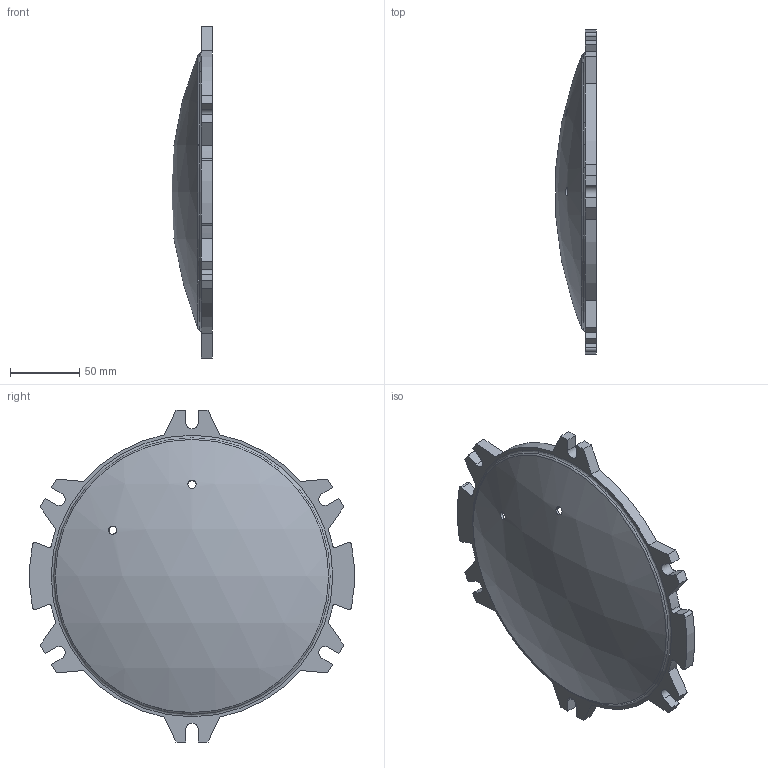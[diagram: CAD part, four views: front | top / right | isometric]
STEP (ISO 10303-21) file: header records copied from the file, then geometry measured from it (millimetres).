
FILE_DESCRIPTION(/* description */ (''),/* implementation_level */ '2;1');
FILE_NAME(/* name */ 'C:\Users\user\Documents\Inventor\Home Ventilator CPAP\Cap for container 02.stp',/* time_stamp */ '2020-03-29T22:38:09+02:00',/* author */ ('user'),/* organization */ (''),/* preprocessor_version */ 'ST-DEVELOPER v16.5',/* originating_system */ 'Autodesk Inventor 2017',/* authorisation */ '');
FILE_SCHEMA (('AUTOMOTIVE_DESIGN { 1 0 10303 214 3 1 1 }'));
Length unit declared in the file: millimetre
Products named in the file (1): Cap for container 02
Bounding box: 29.45 x 234.51 x 240 mm (x, y, z)
Volume: 125297.2 mm3; surface area: 91557.5 mm2
Topology: 1 solids, 1 shells, 73 faces, 207 edges, 138 vertices
Faces by surface type: plane 42, cylinder 27, torus 2, sphere 2
Full cylindrical faces by diameter (mm): 6 x2, 196 x1
Entity records: 2388 total; most frequent: CARTESIAN_POINT 413, DIRECTION 408, ORIENTED_EDGE 404, EDGE_CURVE 202, LINE 144, VECTOR 144, VERTEX_POINT 137, AXIS2_PLACEMENT_3D 132
